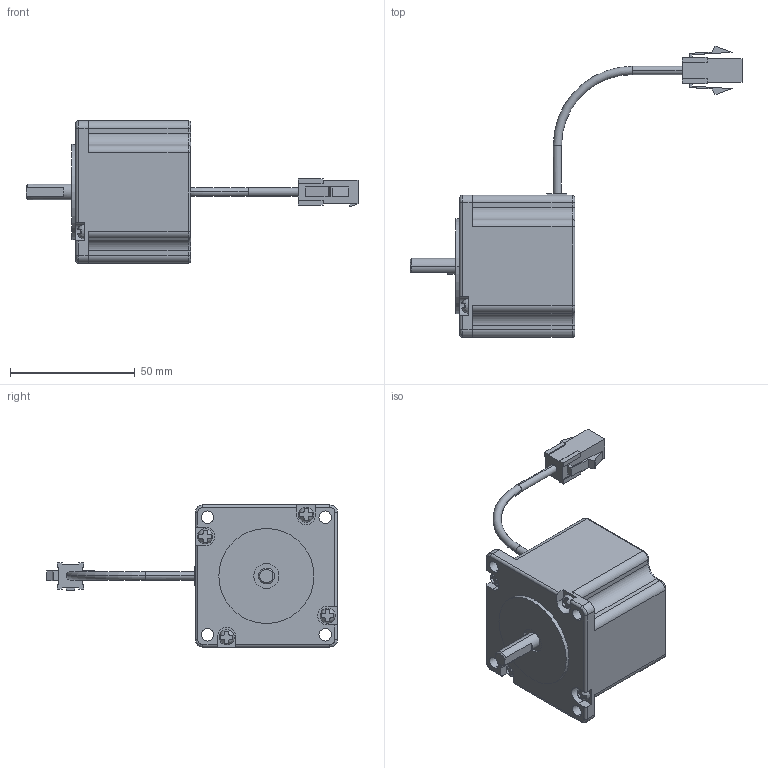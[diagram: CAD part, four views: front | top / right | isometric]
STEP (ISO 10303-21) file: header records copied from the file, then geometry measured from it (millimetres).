
FILE_DESCRIPTION (( 'STEP AP203' ), '1' );
FILE_NAME ('P21-MO-056-01-R00.STEP', '2015-06-30T08:11:06', ( '' ), ( '' ), 'SwSTEP 2.0', 'SolidWorks 2013', '' );
FILE_SCHEMA (( 'CONFIG_CONTROL_DESIGN' ));
Length unit declared in the file: millimetre
Products named in the file (3): M21-MO-056-01-R00; Power_Cable_ル遽; P21-MO-056-01-R00
Assembly tree (2 placements, depth 2):
  P21-MO-056-01-R00
    M21-MO-056-01-R00
    Power_Cable_ル遽
Bounding box: 133.07 x 116.61 x 57 mm (x, y, z)
Volume: 137941.1 mm3; surface area: 20709.8 mm2
Topology: 2 solids, 2 shells, 281 faces, 738 edges, 476 vertices
Faces by surface type: plane 173, cylinder 83, torus 14, bspline 8, cone 3
Entity records: 9251 total; most frequent: CARTESIAN_POINT 1974, ORIENTED_EDGE 1460, DIRECTION 1445, EDGE_CURVE 730, AXIS2_PLACEMENT_3D 483, LINE 479, VECTOR 479, VERTEX_POINT 476
